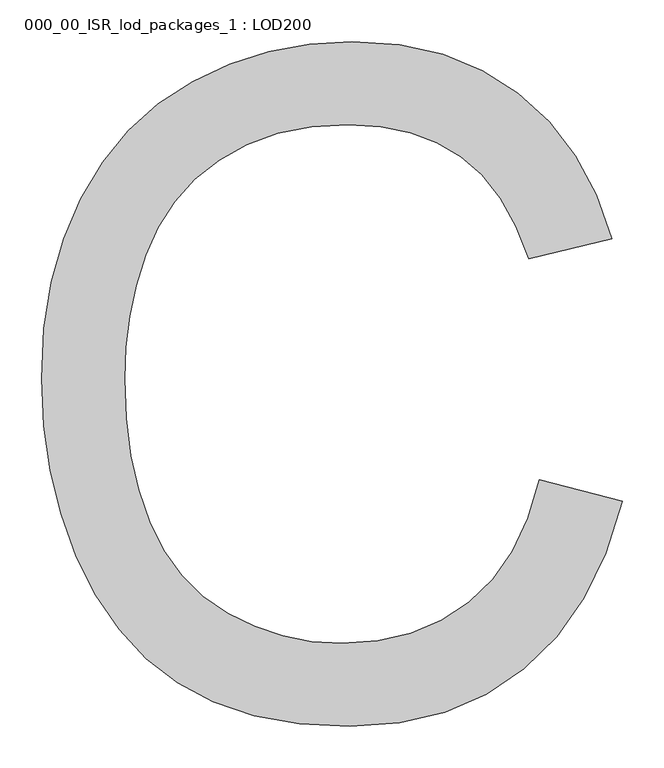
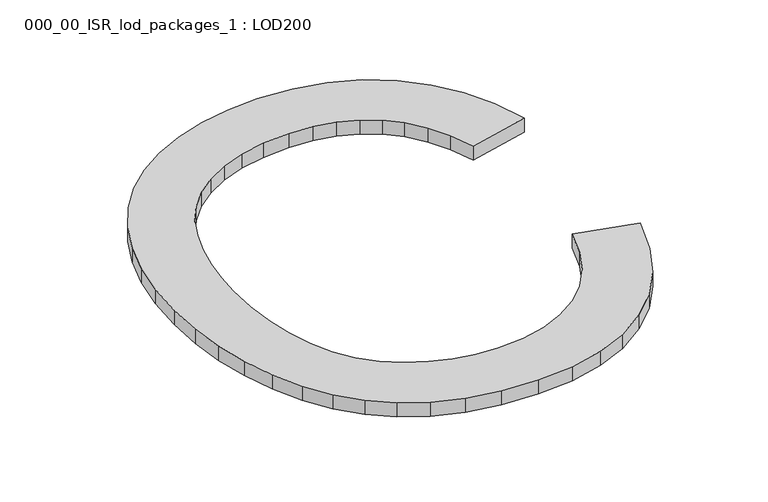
"""IFC4 building model written with IfcOpenShell, lengths in millimetres: proxy geometry, 000_00_ISR_lod_packages_1 : LOD200."""

from ifc_helpers import new_model, si_unit, origin, origin_with_axes, place, context, project, spatial, polyline, outline, extrude, source, transform, mapped, element, save


def proxy_000_00_isr_lod_packages_1_lod200_a5e92c51(model_context):
    return source(origin(), model_context, "Body", "SweptSolid", [
        extrude(outline(polyline([(1149.5033174, 784.1577014), (1249.4269047, 758.3961515), (1229.6544273, 696.2549509), (1203.3195854, 641.9568736), (1170.422379, 595.5019198), (1130.962808, 556.8900892), (1085.831305, 526.536104), (1035.9183022, 504.854686), (981.2237995, 491.8458352), (921.7477971, 487.5095516), (860.8141692, 490.7907338), (805.8452182, 500.6342806), (756.8409443, 517.0401918), (713.8013474, 540.0084676), (676.1348389, 569.1975721), (643.2498302, 604.2659697), (615.1463213, 645.2136605), (591.8243122, 692.0406443), (573.5094603, 742.7221025), (560.4274233, 795.2332162), (552.5782011, 849.5739854), (549.9617936, 905.7444101), (552.9197368, 966.0132632), (561.7935661, 1022.305665), (576.5832816, 1074.6216155), (597.2888833, 1122.9611145), (623.4468585, 1166.5252127), (654.5936945, 1204.5149603), (690.7293912, 1236.9303574), (731.8539486, 1263.771404), (776.5707298, 1284.8185415), (823.4830975, 1299.8522111), (872.5910519, 1308.8724128), (923.894593, 1311.8791468), (981.0469328, 1307.9880793), (1033.454366, 1296.3148771), (1081.1168926, 1276.8595399), (1124.0345124, 1249.622068), (1161.4997588, 1215.3221256), (1192.8051649, 1174.6793775), (1217.9507307, 1127.6938235), (1236.9364563, 1074.3654637), (1137.012869, 1050.5555464), (1121.2778314, 1089.8504483), (1102.371391, 1123.4246273), (1080.2935476, 1151.2780833), (1055.0443013, 1173.4108163), (1026.4772796, 1190.2741414), (994.4461102, 1202.3193737), (958.9507929, 1209.546513), (919.9913278, 1211.9555595), (875.1647674, 1209.2842624), (834.1682858, 1201.2703712), (797.0018832, 1187.9138858), (763.6655594, 1169.2148063), (734.5801354, 1146.0147742), (710.1664318, 1119.155431), (690.4244486, 1088.6367768), (675.3541859, 1054.4588115), (664.2115837, 1018.1706435), (656.2525822, 981.3213812), (651.4771812, 943.9110245), (649.8853809, 905.9395734), (651.7699261, 858.2221572), (657.4235617, 813.6273531), (666.8462877, 772.1551611), (680.0381041, 733.8055812), (697.2124706, 699.3409699), (718.5828472, 669.5236836), (744.1492338, 644.3537224), (773.9116304, 623.8310862), (806.4246092, 607.9069843), (840.2427422, 596.5326257), (875.3660295, 589.7080106), (911.7944711, 587.4331389), (955.2365922, 590.5313556), (995.2023678, 599.8260057), (1031.6917979, 615.3170891), (1064.7048825, 637.004606), (1093.4609685, 664.7909746), (1117.1794031, 698.5786134), (1135.860186, 738.3675223), (1149.5033174, 784.1577014)])), origin_with_axes(), (0.0, 0.0, 1.0), 25.0),
    ])


if __name__ == "__main__":
    model = new_model("IFC4")
    model_context = context("Model", 3, world=origin())
    ifc_project = project(units=[si_unit("LENGTHUNIT", "METRE", prefix="MILLI")], contexts=[model_context])
    site = spatial("IfcSite", under=ifc_project)
    building = spatial("IfcBuilding", under=site)
    placement = place(None, origin())
    proxy_000_00_isr_lod_packages_1_lod200_shape = proxy_000_00_isr_lod_packages_1_lod200_a5e92c51(model_context)
    element("IfcBuildingElementProxy", 1, Name="000_00_ISR_lod_packages_1 : LOD200", ObjectType="000_00_ISR_lod_packages_1 : LOD200", at=placement, inside=building, context=model_context, shape_type="MappedRepresentation", body=[
        mapped(proxy_000_00_isr_lod_packages_1_lod200_shape, transform((0.0, 0.0, 0.0), x_axis=(1.0, 0.0, 0.0), y_axis=(0.0, 1.0, 0.0), z_axis=(0.0, 0.0, 1.0))),
    ])
    save(model, "model.ifc")
